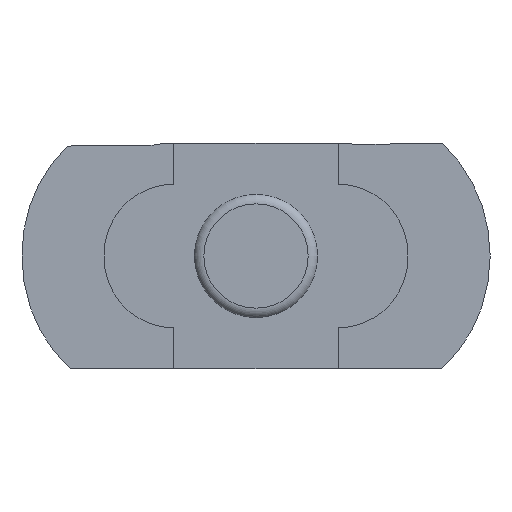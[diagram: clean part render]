
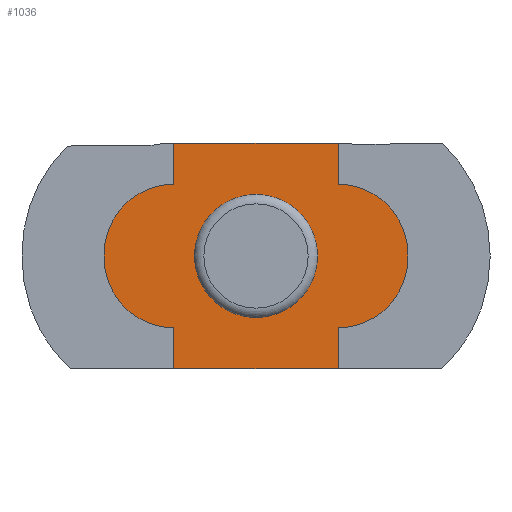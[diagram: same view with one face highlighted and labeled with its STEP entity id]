
A CAD part, left-side view. The second image highlights one B-rep face of the part: STEP entity #1036.
In plain terms, the highlighted planar face has unit normal (-1, 0, 0).
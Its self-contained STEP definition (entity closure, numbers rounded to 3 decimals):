
#15=FACE_BOUND('',#373,.T.);
#69=LINE('',#1610,#177);
#73=LINE('',#1619,#181);
#75=LINE('',#1624,#183);
#78=LINE('',#1632,#186);
#82=LINE('',#1641,#190);
#84=LINE('',#1646,#192);
#87=LINE('',#1652,#195);
#88=LINE('',#1653,#196);
#177=VECTOR('',#1293,10.);
#181=VECTOR('',#1303,10.);
#183=VECTOR('',#1307,10.);
#186=VECTOR('',#1316,10.);
#190=VECTOR('',#1326,10.);
#192=VECTOR('',#1330,10.);
#195=VECTOR('',#1339,1.);
#196=VECTOR('',#1340,1.);
#270=PLANE('',#1132);
#315=FACE_OUTER_BOUND('',#372,.T.);
#372=EDGE_LOOP('',(#828,#829,#830,#831,#832,#833,#834,#835,#836,#837,#838,
#839));
#373=EDGE_LOOP('',(#840));
#407=CIRCLE('',#1084,3.);
#426=CIRCLE('',#1120,3.4);
#427=CIRCLE('',#1124,3.4);
#428=CIRCLE('',#1127,3.4);
#429=CIRCLE('',#1131,3.4);
#451=VERTEX_POINT('',#1501);
#490=VERTEX_POINT('',#1608);
#491=VERTEX_POINT('',#1609);
#492=VERTEX_POINT('',#1614);
#493=VERTEX_POINT('',#1618);
#494=VERTEX_POINT('',#1622);
#495=VERTEX_POINT('',#1623);
#496=VERTEX_POINT('',#1630);
#497=VERTEX_POINT('',#1631);
#498=VERTEX_POINT('',#1636);
#499=VERTEX_POINT('',#1640);
#500=VERTEX_POINT('',#1644);
#501=VERTEX_POINT('',#1645);
#552=EDGE_CURVE('',#451,#451,#407,.T.);
#603=EDGE_CURVE('',#490,#491,#69,.T.);
#606=EDGE_CURVE('',#491,#492,#426,.T.);
#608=EDGE_CURVE('',#492,#493,#73,.T.);
#610=EDGE_CURVE('',#494,#495,#75,.T.);
#613=EDGE_CURVE('',#495,#490,#427,.T.);
#614=EDGE_CURVE('',#496,#497,#78,.T.);
#617=EDGE_CURVE('',#497,#498,#428,.T.);
#619=EDGE_CURVE('',#498,#499,#82,.T.);
#621=EDGE_CURVE('',#500,#501,#84,.T.);
#624=EDGE_CURVE('',#501,#496,#429,.T.);
#625=EDGE_CURVE('',#493,#500,#87,.T.);
#626=EDGE_CURVE('',#499,#494,#88,.T.);
#828=ORIENTED_EDGE('',*,*,#608,.T.);
#829=ORIENTED_EDGE('',*,*,#625,.T.);
#830=ORIENTED_EDGE('',*,*,#621,.T.);
#831=ORIENTED_EDGE('',*,*,#624,.T.);
#832=ORIENTED_EDGE('',*,*,#614,.T.);
#833=ORIENTED_EDGE('',*,*,#617,.T.);
#834=ORIENTED_EDGE('',*,*,#619,.T.);
#835=ORIENTED_EDGE('',*,*,#626,.T.);
#836=ORIENTED_EDGE('',*,*,#610,.T.);
#837=ORIENTED_EDGE('',*,*,#613,.T.);
#838=ORIENTED_EDGE('',*,*,#603,.T.);
#839=ORIENTED_EDGE('',*,*,#606,.T.);
#840=ORIENTED_EDGE('',*,*,#552,.T.);
#1036=ADVANCED_FACE('',(#315,#15),#270,.T.);
#1084=AXIS2_PLACEMENT_3D('',#1503,#1191,#1192);
#1120=AXIS2_PLACEMENT_3D('',#1615,#1298,#1299);
#1124=AXIS2_PLACEMENT_3D('',#1628,#1312,#1313);
#1127=AXIS2_PLACEMENT_3D('',#1637,#1321,#1322);
#1131=AXIS2_PLACEMENT_3D('',#1650,#1335,#1336);
#1132=AXIS2_PLACEMENT_3D('',#1651,#1337,#1338);
#1191=DIRECTION('center_axis',(1.,0.,0.));
#1192=DIRECTION('ref_axis',(0.,0.,1.));
#1293=DIRECTION('',(0.,0.,1.));
#1298=DIRECTION('center_axis',(-1.,0.,0.));
#1299=DIRECTION('ref_axis',(0.,-1.,0.));
#1303=DIRECTION('',(0.,0.,1.));
#1307=DIRECTION('',(0.,0.,1.));
#1312=DIRECTION('center_axis',(-1.,0.,0.));
#1313=DIRECTION('ref_axis',(0.,0.,-1.));
#1316=DIRECTION('',(0.,0.,-1.));
#1321=DIRECTION('center_axis',(-1.,0.,0.));
#1322=DIRECTION('ref_axis',(0.,1.,0.));
#1326=DIRECTION('',(0.,0.,-1.));
#1330=DIRECTION('',(0.,0.,-1.));
#1335=DIRECTION('center_axis',(-1.,0.,0.));
#1336=DIRECTION('ref_axis',(0.,0.,1.));
#1337=DIRECTION('center_axis',(-1.,0.,0.));
#1338=DIRECTION('ref_axis',(0.,0.,1.));
#1339=DIRECTION('',(0.,1.,0.));
#1340=DIRECTION('',(0.,-1.,0.));
#1501=CARTESIAN_POINT('',(39.3,18.,-9.));
#1503=CARTESIAN_POINT('Origin',(39.3,18.,-12.));
#1608=CARTESIAN_POINT('',(39.3,10.6,-12.1));
#1609=CARTESIAN_POINT('',(39.3,10.6,-11.9));
#1610=CARTESIAN_POINT('',(39.3,10.6,-11.95));
#1614=CARTESIAN_POINT('',(39.3,14.,-8.5));
#1615=CARTESIAN_POINT('Origin',(39.3,14.,-11.9));
#1618=CARTESIAN_POINT('',(39.3,14.,-6.5));
#1619=CARTESIAN_POINT('',(39.3,14.,-9.25));
#1622=CARTESIAN_POINT('',(39.3,14.,-17.5));
#1623=CARTESIAN_POINT('',(39.3,14.,-15.5));
#1624=CARTESIAN_POINT('',(39.3,14.,-13.75));
#1628=CARTESIAN_POINT('Origin',(39.3,14.,-12.1));
#1630=CARTESIAN_POINT('',(39.3,25.4,-11.9));
#1631=CARTESIAN_POINT('',(39.3,25.4,-12.1));
#1632=CARTESIAN_POINT('',(39.3,25.4,-12.05));
#1636=CARTESIAN_POINT('',(39.3,22.,-15.5));
#1637=CARTESIAN_POINT('Origin',(39.3,22.,-12.1));
#1640=CARTESIAN_POINT('',(39.3,22.,-17.5));
#1641=CARTESIAN_POINT('',(39.3,22.,-14.75));
#1644=CARTESIAN_POINT('',(39.3,22.,-6.5));
#1645=CARTESIAN_POINT('',(39.3,22.,-8.5));
#1646=CARTESIAN_POINT('',(39.3,22.,-10.25));
#1650=CARTESIAN_POINT('Origin',(39.3,22.,-11.9));
#1651=CARTESIAN_POINT('Origin',(39.3,18.,-12.));
#1652=CARTESIAN_POINT('',(39.3,14.,-6.5));
#1653=CARTESIAN_POINT('',(39.3,22.,-17.5));
